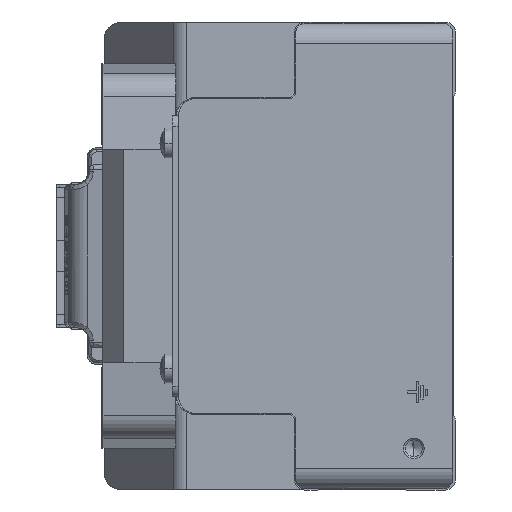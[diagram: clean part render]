
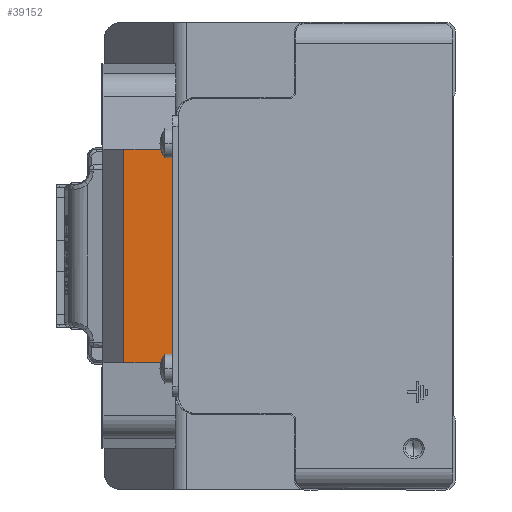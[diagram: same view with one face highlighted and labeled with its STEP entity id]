
A CAD part, left-side view. The second image highlights one B-rep face of the part: STEP entity #39152.
In plain terms, the highlighted planar face has unit normal (-1, 0, 0) as drawn and (0, 0, 1) by its records, which use the part's own axes.
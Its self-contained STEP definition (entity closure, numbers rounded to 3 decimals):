
#927 = PLANE ( 'NONE',  #55777 ) ;
#1192 = EDGE_CURVE ( 'NONE', #51798, #33017, #39371, .T. ) ;
#2109 = DIRECTION ( 'NONE',  ( 0., -1., 0. ) ) ;
#2732 = VECTOR ( 'NONE', #51982, 1000. ) ;
#4726 = CARTESIAN_POINT ( 'NONE',  ( -20.5, 14., 170. ) ) ;
#5409 = EDGE_CURVE ( 'NONE', #41612, #13811, #46546, .T. ) ;
#5899 = EDGE_CURVE ( 'NONE', #13811, #51204, #46597, .T. ) ;
#6459 = CARTESIAN_POINT ( 'NONE',  ( 20.5, 10., 170. ) ) ;
#6977 = ORIENTED_EDGE ( 'NONE', *, *, #55736, .T. ) ;
#7645 = DIRECTION ( 'NONE',  ( 0.243, 0.97, 0. ) ) ;
#7792 = CARTESIAN_POINT ( 'NONE',  ( -20.5, 0., 170. ) ) ;
#7799 = CARTESIAN_POINT ( 'NONE',  ( -20., -2., 170. ) ) ;
#8211 = ORIENTED_EDGE ( 'NONE', *, *, #10843, .T. ) ;
#10843 = EDGE_CURVE ( 'NONE', #33017, #32840, #20403, .T. ) ;
#12041 = LINE ( 'NONE', #29898, #21882 ) ;
#13183 = EDGE_LOOP ( 'NONE', ( #14017, #13729, #28084, #47510, #33455, #8211, #6977, #25012 ) ) ;
#13729 = ORIENTED_EDGE ( 'NONE', *, *, #5899, .T. ) ;
#13811 = VERTEX_POINT ( 'NONE', #21370 ) ;
#14017 = ORIENTED_EDGE ( 'NONE', *, *, #5409, .T. ) ;
#14339 = FACE_OUTER_BOUND ( 'NONE', #13183, .T. ) ;
#14377 = VERTEX_POINT ( 'NONE', #16459 ) ;
#16395 = DIRECTION ( 'NONE',  ( -1., 0., 0. ) ) ;
#16459 = CARTESIAN_POINT ( 'NONE',  ( 20.5, 0., 170. ) ) ;
#20403 = LINE ( 'NONE', #48217, #52876 ) ;
#21370 = CARTESIAN_POINT ( 'NONE',  ( -20.5, 10., 170. ) ) ;
#21882 = VECTOR ( 'NONE', #7645, 1000. ) ;
#25012 = ORIENTED_EDGE ( 'NONE', *, *, #45535, .F. ) ;
#25109 = CARTESIAN_POINT ( 'NONE',  ( 19.5, 0., 170. ) ) ;
#25477 = DIRECTION ( 'NONE',  ( 0.243, -0.97, 0. ) ) ;
#25977 = DIRECTION ( 'NONE',  ( 0.243, -0.97, 0. ) ) ;
#28084 = ORIENTED_EDGE ( 'NONE', *, *, #50778, .T. ) ;
#29873 = LINE ( 'NONE', #30466, #46960 ) ;
#29898 = CARTESIAN_POINT ( 'NONE',  ( -20., -2., 170. ) ) ;
#30466 = CARTESIAN_POINT ( 'NONE',  ( -20.5, 0., 170. ) ) ;
#32485 = DIRECTION ( 'NONE',  ( 0., 0., -1. ) ) ;
#32840 = VERTEX_POINT ( 'NONE', #36620 ) ;
#33017 = VERTEX_POINT ( 'NONE', #25109 ) ;
#33455 = ORIENTED_EDGE ( 'NONE', *, *, #1192, .T. ) ;
#35609 = EDGE_CURVE ( 'NONE', #44546, #51798, #12041, .T. ) ;
#36620 = CARTESIAN_POINT ( 'NONE',  ( 20., -2., 170. ) ) ;
#37105 = VECTOR ( 'NONE', #39859, 1000. ) ;
#37821 = CARTESIAN_POINT ( 'NONE',  ( -20.5, 14., 170. ) ) ;
#39152 = ADVANCED_FACE ( 'NONE', ( #14339 ), #927, .F. ) ;
#39371 = LINE ( 'NONE', #7792, #2732 ) ;
#39584 = CARTESIAN_POINT ( 'NONE',  ( 20., -2., 170. ) ) ;
#39859 = DIRECTION ( 'NONE',  ( 0.243, 0.97, 0. ) ) ;
#40201 = VECTOR ( 'NONE', #2109, 1000. ) ;
#40496 = CARTESIAN_POINT ( 'NONE',  ( -20.5, 0., 170. ) ) ;
#41612 = VERTEX_POINT ( 'NONE', #6459 ) ;
#42991 = CARTESIAN_POINT ( 'NONE',  ( 20.5, 14., 170. ) ) ;
#44546 = VERTEX_POINT ( 'NONE', #7799 ) ;
#45535 = EDGE_CURVE ( 'NONE', #41612, #14377, #56243, .T. ) ;
#46311 = DIRECTION ( 'NONE',  ( 0., -1., 0. ) ) ;
#46546 = LINE ( 'NONE', #56537, #51896 ) ;
#46597 = LINE ( 'NONE', #37821, #51987 ) ;
#46960 = VECTOR ( 'NONE', #25477, 1000. ) ;
#47510 = ORIENTED_EDGE ( 'NONE', *, *, #35609, .T. ) ;
#48217 = CARTESIAN_POINT ( 'NONE',  ( 19.5, 0., 170. ) ) ;
#49470 = DIRECTION ( 'NONE',  ( -1., 0., 0. ) ) ;
#50778 = EDGE_CURVE ( 'NONE', #51204, #44546, #29873, .T. ) ;
#51204 = VERTEX_POINT ( 'NONE', #40496 ) ;
#51798 = VERTEX_POINT ( 'NONE', #57756 ) ;
#51896 = VECTOR ( 'NONE', #16395, 1000. ) ;
#51982 = DIRECTION ( 'NONE',  ( 1., 0., 0. ) ) ;
#51987 = VECTOR ( 'NONE', #46311, 1000. ) ;
#52876 = VECTOR ( 'NONE', #25977, 1000. ) ;
#55736 = EDGE_CURVE ( 'NONE', #32840, #14377, #56925, .T. ) ;
#55777 = AXIS2_PLACEMENT_3D ( 'NONE', #4726, #32485, #49470 ) ;
#56243 = LINE ( 'NONE', #42991, #40201 ) ;
#56537 = CARTESIAN_POINT ( 'NONE',  ( 20.5, 10., 170. ) ) ;
#56925 = LINE ( 'NONE', #39584, #37105 ) ;
#57756 = CARTESIAN_POINT ( 'NONE',  ( -19.5, 0., 170. ) ) ;
